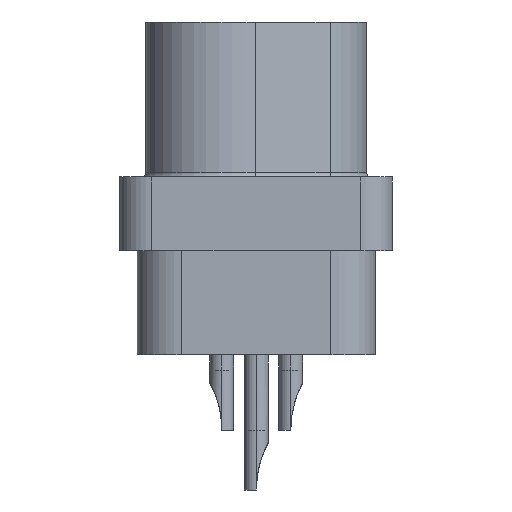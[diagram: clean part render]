
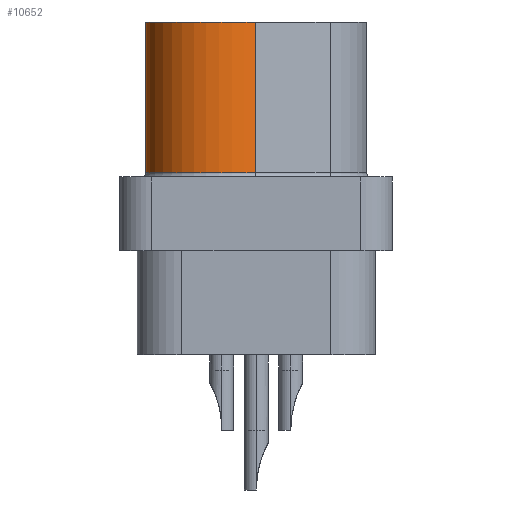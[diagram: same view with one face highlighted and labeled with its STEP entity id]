
A CAD part, left-side view. The second image highlights one B-rep face of the part: STEP entity #10652.
In plain terms, the highlighted cylindrical face has radius 2.339 mm (diameter 4.679 mm), a partial arc.
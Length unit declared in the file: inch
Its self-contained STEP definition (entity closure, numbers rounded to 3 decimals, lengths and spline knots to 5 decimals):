
#257 = CYLINDRICAL_SURFACE ( 'NONE', #35658, 0.0921 ) ;
#947 = ORIENTED_EDGE ( 'NONE', *, *, #14201, .T. ) ;
#1255 = ORIENTED_EDGE ( 'NONE', *, *, #16437, .F. ) ;
#2018 = FACE_OUTER_BOUND ( 'NONE', #33239, .T. ) ;
#2852 = DIRECTION ( 'NONE',  ( 0., 0., -1. ) ) ;
#3109 = CARTESIAN_POINT ( 'NONE',  ( -0.425, 0.0255, 0.045 ) ) ;
#3437 = VERTEX_POINT ( 'NONE', #9357 ) ;
#5419 = AXIS2_PLACEMENT_3D ( 'NONE', #19847, #19812, #19735 ) ;
#5599 = CARTESIAN_POINT ( 'NONE',  ( -0.425, 0.1176, 0.235 ) ) ;
#5953 = DIRECTION ( 'NONE',  ( 1., 0., 0. ) ) ;
#6230 = CARTESIAN_POINT ( 'NONE',  ( -0.50476, -0.02055, 0.235 ) ) ;
#6518 = CARTESIAN_POINT ( 'NONE',  ( -0.50476, -0.02055, 0.235 ) ) ;
#6833 = VECTOR ( 'NONE', #30703, 39.37008 ) ;
#7095 = LINE ( 'NONE', #30619, #6833 ) ;
#9357 = CARTESIAN_POINT ( 'NONE',  ( -0.50476, -0.02055, 0.045 ) ) ;
#9701 = VERTEX_POINT ( 'NONE', #19304 ) ;
#10652 = ADVANCED_FACE ( 'NONE', ( #2018 ), #257, .T. ) ;
#11064 = VERTEX_POINT ( 'NONE', #5599 ) ;
#11717 = ORIENTED_EDGE ( 'NONE', *, *, #30447, .T. ) ;
#14201 = EDGE_CURVE ( 'NONE', #34896, #11064, #18398, .T. ) ;
#15378 = EDGE_CURVE ( 'NONE', #11064, #9701, #7095, .T. ) ;
#16437 = EDGE_CURVE ( 'NONE', #34896, #3437, #32471, .T. ) ;
#18398 = CIRCLE ( 'NONE', #5419, 0.0921 ) ;
#19304 = CARTESIAN_POINT ( 'NONE',  ( -0.425, 0.1176, 0.045 ) ) ;
#19735 = DIRECTION ( 'NONE',  ( 1., 0., 0. ) ) ;
#19812 = DIRECTION ( 'NONE',  ( 0., 0., -1. ) ) ;
#19847 = CARTESIAN_POINT ( 'NONE',  ( -0.425, 0.0255, 0.235 ) ) ;
#22429 = DIRECTION ( 'NONE',  ( 0., 0., 1. ) ) ;
#22484 = DIRECTION ( 'NONE',  ( 1., 0., 0. ) ) ;
#22522 = CARTESIAN_POINT ( 'NONE',  ( -0.425, 0.0255, 0.235 ) ) ;
#22911 = DIRECTION ( 'NONE',  ( 0., 0., -1. ) ) ;
#30447 = EDGE_CURVE ( 'NONE', #9701, #3437, #32868, .T. ) ;
#30619 = CARTESIAN_POINT ( 'NONE',  ( -0.425, 0.1176, 0.235 ) ) ;
#30703 = DIRECTION ( 'NONE',  ( 0., 0., -1. ) ) ;
#32311 = AXIS2_PLACEMENT_3D ( 'NONE', #3109, #22429, #5953 ) ;
#32446 = VECTOR ( 'NONE', #2852, 39.37008 ) ;
#32471 = LINE ( 'NONE', #6230, #32446 ) ;
#32868 = CIRCLE ( 'NONE', #32311, 0.0921 ) ;
#33084 = ORIENTED_EDGE ( 'NONE', *, *, #15378, .T. ) ;
#33239 = EDGE_LOOP ( 'NONE', ( #33084, #11717, #1255, #947 ) ) ;
#34896 = VERTEX_POINT ( 'NONE', #6518 ) ;
#35658 = AXIS2_PLACEMENT_3D ( 'NONE', #22522, #22911, #22484 ) ;
